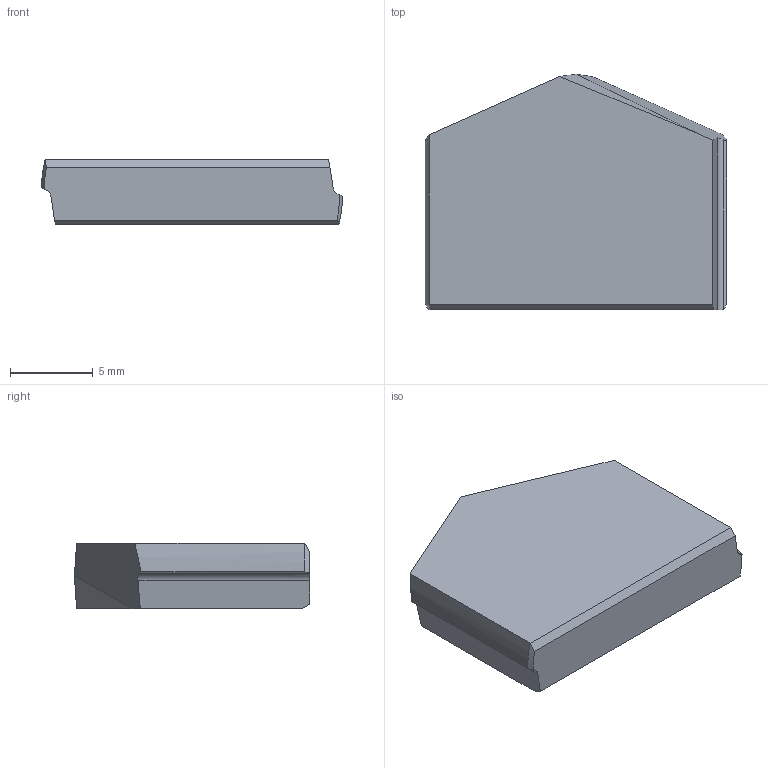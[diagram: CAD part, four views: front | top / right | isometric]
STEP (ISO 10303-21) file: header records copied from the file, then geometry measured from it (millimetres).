
FILE_DESCRIPTION (( 'STEP AP214' ), '1' );
FILE_NAME ('23-32.STEP', '2022-06-24T05:43:12', ( '' ), ( '' ), 'SwSTEP 2.0', 'SolidWorks 2018', '' );
FILE_SCHEMA (( 'AUTOMOTIVE_DESIGN' ));
Length unit declared in the file: millimetre
Products named in the file (1): 23-32
Bounding box: 18.25 x 14.25 x 4 mm (x, y, z)
Volume: 855.9 mm3; surface area: 651.2 mm2
Topology: 1 solids, 1 shells, 19 faces, 50 edges, 33 vertices
Faces by surface type: plane 13, cylinder 4, cone 2
Entity records: 620 total; most frequent: CARTESIAN_POINT 133, ORIENTED_EDGE 100, DIRECTION 86, EDGE_CURVE 50, VECTOR 34, LINE 34, VERTEX_POINT 33, AXIS2_PLACEMENT_3D 26
